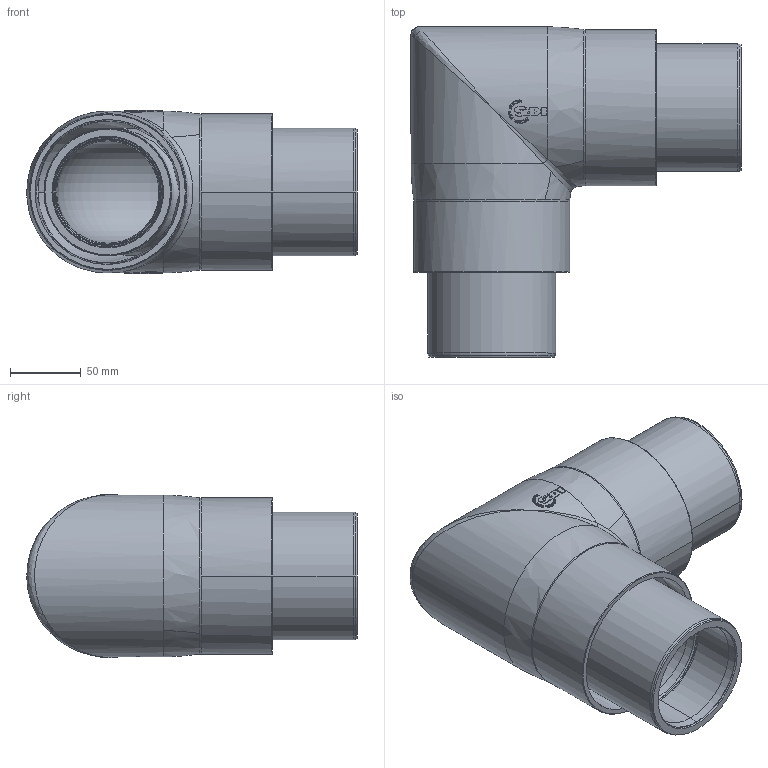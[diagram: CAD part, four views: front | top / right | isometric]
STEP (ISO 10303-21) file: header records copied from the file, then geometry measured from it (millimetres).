
FILE_DESCRIPTION (( 'STEP AP214' ), '1' );
FILE_NAME ('KP_33-110-90SCC.STEP', '2024-09-13T04:59:03', ( '' ), ( '' ), 'SwSTEP 2.0', 'SolidWorks 2023', '' );
FILE_SCHEMA (( 'AUTOMOTIVE_DESIGN' ));
Length unit declared in the file: millimetre
Products named in the file (1): KP_33-110-90SCC
Bounding box: 234.04 x 234.05 x 115.7 mm (x, y, z)
Volume: 1137351.7 mm3; surface area: 335517.7 mm2
Topology: 2 solids, 7 shells, 555 faces, 1429 edges, 921 vertices
Faces by surface type: plane 301, bspline 124, cylinder 81, torus 25, cone 24
Entity records: 32437 total; most frequent: CARTESIAN_POINT 21026, ORIENTED_EDGE 2822, DIRECTION 1580, EDGE_CURVE 1411, VERTEX_POINT 921, B_SPLINE_CURVE_WITH_KNOTS 750, EDGE_LOOP 610, AXIS2_PLACEMENT_3D 570
